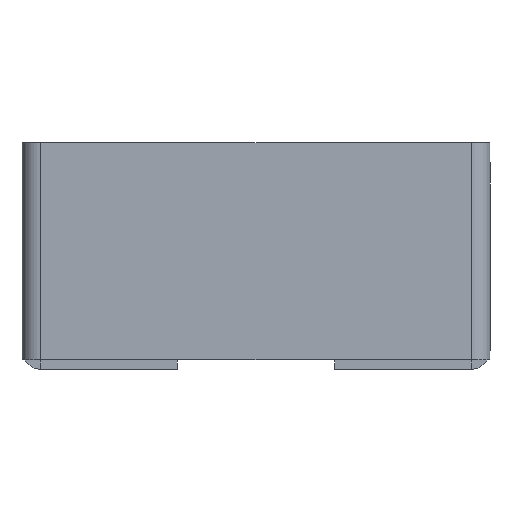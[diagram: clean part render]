
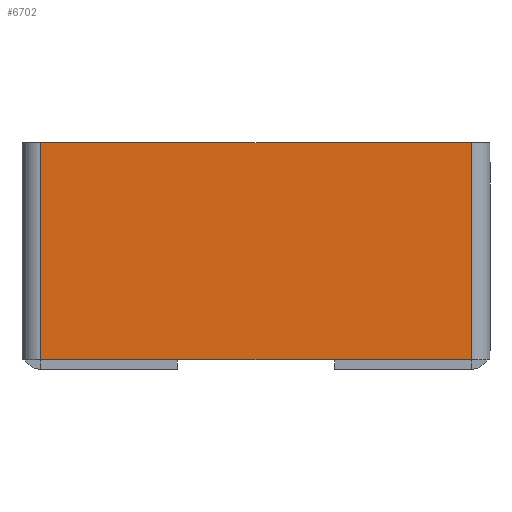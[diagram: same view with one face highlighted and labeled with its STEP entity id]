
A CAD part, front view. The second image highlights one B-rep face of the part: STEP entity #6702.
In plain terms, the highlighted planar face has unit normal (0, -1, 0).
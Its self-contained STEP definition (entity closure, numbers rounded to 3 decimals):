
#45 = VECTOR ( 'NONE', #3365, 1000. ) ;
#315 = FACE_OUTER_BOUND ( 'NONE', #1816, .T. ) ;
#350 = ORIENTED_EDGE ( 'NONE', *, *, #2305, .T. ) ;
#911 = CARTESIAN_POINT ( 'NONE',  ( 57.5, -2.5, 0. ) ) ;
#1331 = LINE ( 'NONE', #7518, #5025 ) ;
#1481 = AXIS2_PLACEMENT_3D ( 'NONE', #7923, #3992, #2699 ) ;
#1816 = EDGE_LOOP ( 'NONE', ( #350, #4685, #4997, #3395 ) ) ;
#2305 = EDGE_CURVE ( 'NONE', #2889, #7034, #7638, .T. ) ;
#2455 = EDGE_CURVE ( 'NONE', #2889, #8423, #7727, .T. ) ;
#2514 = DIRECTION ( 'NONE',  ( 0., 0., -1. ) ) ;
#2699 = DIRECTION ( 'NONE',  ( 0., 0., 1. ) ) ;
#2774 = EDGE_CURVE ( 'NONE', #7959, #7034, #7633, .T. ) ;
#2889 = VERTEX_POINT ( 'NONE', #6916 ) ;
#3115 = VECTOR ( 'NONE', #2514, 1000. ) ;
#3365 = DIRECTION ( 'NONE',  ( 1., 0., 0. ) ) ;
#3395 = ORIENTED_EDGE ( 'NONE', *, *, #2455, .F. ) ;
#3758 = CARTESIAN_POINT ( 'NONE',  ( 57.5, -2.5, -58. ) ) ;
#3779 = EDGE_CURVE ( 'NONE', #7959, #8423, #1331, .T. ) ;
#3992 = DIRECTION ( 'NONE',  ( 0., 1., 0. ) ) ;
#4032 = PLANE ( 'NONE',  #1481 ) ;
#4144 = CARTESIAN_POINT ( 'NONE',  ( -57.5, -2.5, -58. ) ) ;
#4376 = DIRECTION ( 'NONE',  ( -1., 0., 0. ) ) ;
#4685 = ORIENTED_EDGE ( 'NONE', *, *, #2774, .F. ) ;
#4997 = ORIENTED_EDGE ( 'NONE', *, *, #3779, .T. ) ;
#5025 = VECTOR ( 'NONE', #8139, 1000. ) ;
#5826 = CARTESIAN_POINT ( 'NONE',  ( -57.5, -2.5, 0. ) ) ;
#5969 = CARTESIAN_POINT ( 'NONE',  ( -60., -2.5, 0. ) ) ;
#6186 = CARTESIAN_POINT ( 'NONE',  ( -60., -2.5, -58. ) ) ;
#6298 = VECTOR ( 'NONE', #4376, 1000. ) ;
#6702 = ADVANCED_FACE ( 'NONE', ( #315 ), #4032, .F. ) ;
#6916 = CARTESIAN_POINT ( 'NONE',  ( -57.5, -2.5, 0. ) ) ;
#7034 = VERTEX_POINT ( 'NONE', #4144 ) ;
#7518 = CARTESIAN_POINT ( 'NONE',  ( 57.5, -2.5, -58. ) ) ;
#7633 = LINE ( 'NONE', #6186, #6298 ) ;
#7638 = LINE ( 'NONE', #5826, #3115 ) ;
#7727 = LINE ( 'NONE', #5969, #45 ) ;
#7923 = CARTESIAN_POINT ( 'NONE',  ( 0., -2.5, 0. ) ) ;
#7959 = VERTEX_POINT ( 'NONE', #3758 ) ;
#8139 = DIRECTION ( 'NONE',  ( 0., 0., 1. ) ) ;
#8423 = VERTEX_POINT ( 'NONE', #911 ) ;
